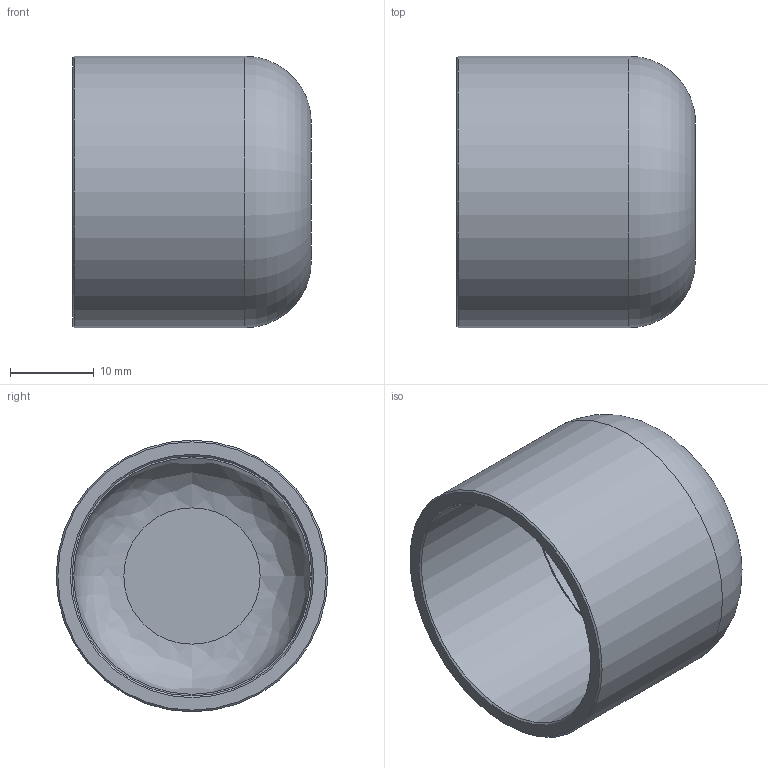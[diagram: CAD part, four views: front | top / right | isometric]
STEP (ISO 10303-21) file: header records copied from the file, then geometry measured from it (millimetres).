
FILE_DESCRIPTION((''),'2;1');
FILE_NAME('G:\SANHA-Ternat\Technik\Management\Bouwmaten + markeringen\z-maattekeningen 3D\29000s\29301118_3d.stp','2017-08-04T13:20:51',('vdvijverd'),(''),'Autodesk Inventor 2009','Autodesk Inventor 2009','');
FILE_SCHEMA(('AUTOMOTIVE_DESIGN { 1 0 10303 214 1 1 1 1 }'));
Length unit declared in the file: millimetre
Products named in the file (1): 29301118_3d
Bounding box: 28.6 x 32.52 x 32.52 mm (x, y, z)
Volume: 5964.8 mm3; surface area: 6336.9 mm2
Topology: 1 solids, 1 shells, 11 faces, 17 edges, 10 vertices
Faces by surface type: plane 4, cylinder 3, cone 2, bspline 1, torus 1
Full cylindrical faces by diameter (mm): 28.325 x1, 28.725 x1, 32.525 x1
Entity records: 280 total; most frequent: CARTESIAN_POINT 76, DIRECTION 42, AXIS2_PLACEMENT_3D 21, ORIENTED_EDGE 20, EDGE_LOOP 20, FACE_OUTER_BOUND 11, ADVANCED_FACE 11, VERTEX_POINT 10
